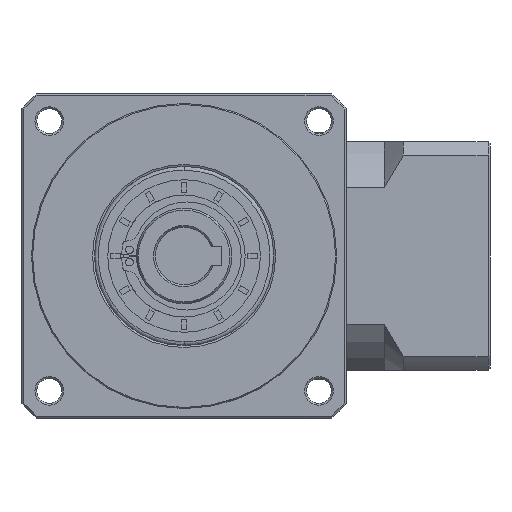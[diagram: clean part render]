
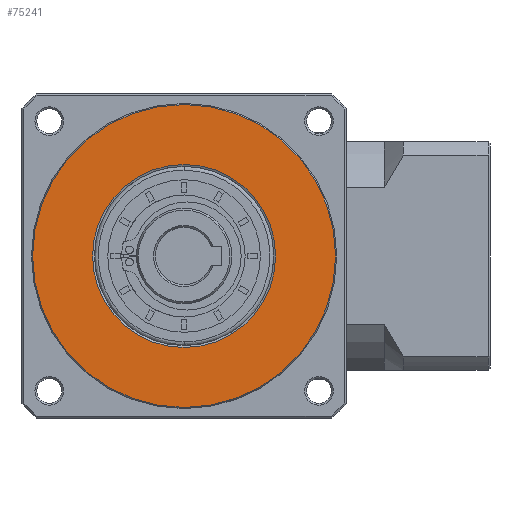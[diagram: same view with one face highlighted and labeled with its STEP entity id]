
A CAD part, left-side view. The second image highlights one B-rep face of the part: STEP entity #75241.
In plain terms, the highlighted planar face has unit normal (-1, 0, 0).
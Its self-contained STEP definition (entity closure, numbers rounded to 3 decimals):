
#502 = ORIENTED_EDGE ( 'NONE', *, *, #38156, .T. ) ;
#17313 = CIRCLE ( 'NONE', #162866, 39.711 ) ;
#24250 = DIRECTION ( 'NONE',  ( 1., 0., 0. ) ) ;
#28116 = ORIENTED_EDGE ( 'NONE', *, *, #126252, .T. ) ;
#32486 = CARTESIAN_POINT ( 'NONE',  ( -39.712, 90.044, -5.04 ) ) ;
#38156 = EDGE_CURVE ( 'NONE', #62507, #156870, #72690, .T. ) ;
#39630 = CARTESIAN_POINT ( 'NONE',  ( -39.712, 90.044, -5.04 ) ) ;
#40169 = EDGE_CURVE ( 'NONE', #96504, #86099, #55081, .T. ) ;
#43505 = FACE_BOUND ( 'NONE', #151819, .T. ) ;
#45050 = ORIENTED_EDGE ( 'NONE', *, *, #40169, .F. ) ;
#45656 = DIRECTION ( 'NONE',  ( 0., 1., 0. ) ) ;
#47320 = CARTESIAN_POINT ( 'NONE',  ( -39.712, 90.044, -5.04 ) ) ;
#50024 = CARTESIAN_POINT ( 'NONE',  ( -39.712, 90.044, -29.04 ) ) ;
#51671 = AXIS2_PLACEMENT_3D ( 'NONE', #39630, #131279, #52832 ) ;
#52832 = DIRECTION ( 'NONE',  ( 0., 0., -1. ) ) ;
#55081 = CIRCLE ( 'NONE', #95358, 39.711 ) ;
#60218 = EDGE_LOOP ( 'NONE', ( #80487, #45050 ) ) ;
#60406 = DIRECTION ( 'NONE',  ( 0., 0., -1. ) ) ;
#61127 = DIRECTION ( 'NONE',  ( 1., 0., 0. ) ) ;
#62507 = VERTEX_POINT ( 'NONE', #108757 ) ;
#72690 = CIRCLE ( 'NONE', #51671, 24. ) ;
#74901 = CARTESIAN_POINT ( 'NONE',  ( -39.712, 50.333, -5.04 ) ) ;
#75241 = ADVANCED_FACE ( 'NONE', ( #78377, #43505 ), #86226, .T. ) ;
#77031 = EDGE_CURVE ( 'NONE', #86099, #96504, #17313, .T. ) ;
#78377 = FACE_OUTER_BOUND ( 'NONE', #60218, .T. ) ;
#80487 = ORIENTED_EDGE ( 'NONE', *, *, #77031, .F. ) ;
#86099 = VERTEX_POINT ( 'NONE', #89820 ) ;
#86226 = PLANE ( 'NONE',  #116532 ) ;
#89820 = CARTESIAN_POINT ( 'NONE',  ( -39.712, 129.755, -5.04 ) ) ;
#95358 = AXIS2_PLACEMENT_3D ( 'NONE', #32486, #124132, #45656 ) ;
#96504 = VERTEX_POINT ( 'NONE', #74901 ) ;
#102008 = CIRCLE ( 'NONE', #135819, 24. ) ;
#102639 = CARTESIAN_POINT ( 'NONE',  ( -39.712, 90.044, -5.04 ) ) ;
#108757 = CARTESIAN_POINT ( 'NONE',  ( -39.712, 90.044, 18.96 ) ) ;
#115892 = DIRECTION ( 'NONE',  ( 0., 0., -1. ) ) ;
#116532 = AXIS2_PLACEMENT_3D ( 'NONE', #47320, #138908, #60406 ) ;
#124132 = DIRECTION ( 'NONE',  ( 1., 0., 0. ) ) ;
#126252 = EDGE_CURVE ( 'NONE', #156870, #62507, #102008, .T. ) ;
#131279 = DIRECTION ( 'NONE',  ( 1., 0., 0. ) ) ;
#135819 = AXIS2_PLACEMENT_3D ( 'NONE', #102639, #24250, #115892 ) ;
#138908 = DIRECTION ( 'NONE',  ( -1., 0., 0. ) ) ;
#139639 = CARTESIAN_POINT ( 'NONE',  ( -39.712, 90.044, -5.04 ) ) ;
#151819 = EDGE_LOOP ( 'NONE', ( #28116, #502 ) ) ;
#152841 = DIRECTION ( 'NONE',  ( 0., 1., 0. ) ) ;
#156870 = VERTEX_POINT ( 'NONE', #50024 ) ;
#162866 = AXIS2_PLACEMENT_3D ( 'NONE', #139639, #61127, #152841 ) ;
